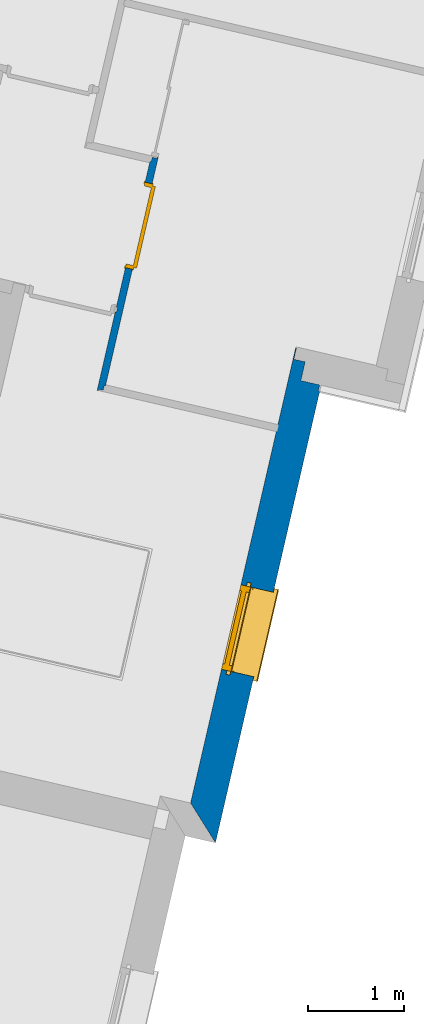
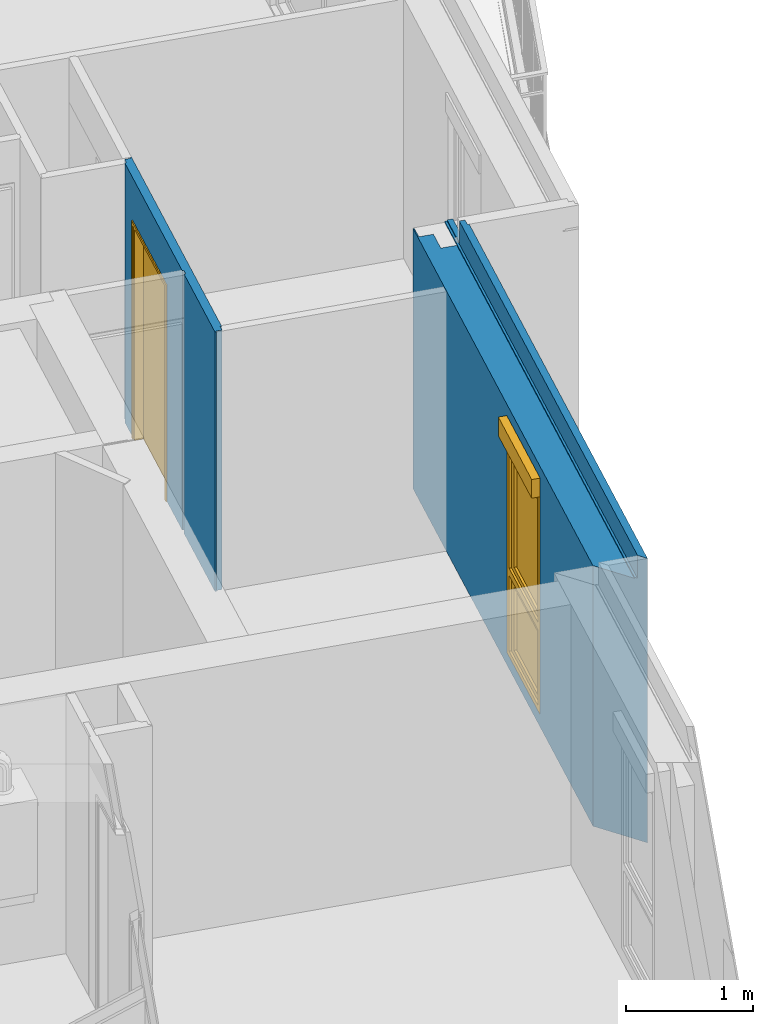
# One storey, part 9 of 62: 2 walls, 1 door, 1 window, 2 openings.
"""IFC2X3 building model written with IfcOpenShell, lengths in metres."""

import ifcopenshell
import ifcopenshell.guid

model = None  # the IFC model being written
_history = None  # IfcOwnerHistory: only IFC2X3 demands one
_inside = {}  # id of a spatial element -> (the spatial element, [elements in it])
_under = {}  # id of a project, library or spatial element -> (it, [spatial elements below it])
_declared = {}  # id of a project -> (the project, [libraries it declares])
_typed = {}  # id of a type object -> (the type object, [elements of that type])
_made_of = {}  # id of a material, layer set ... -> (it, [elements and type objects made of it])


def new_model(schema):
    """Start an empty IFC model of exactly this schema.

    Asked for "IFC4X3", IfcOpenShell would pick the latest addendum, in which some entities
    have other attributes; the version numbers below select the first issue.
    IFC2X3 requires an IfcOwnerHistory on every rooted entity: one is made here for all.
    """
    global model, _history
    if schema == "IFC4X3":
        model = ifcopenshell.file(schema_version=(4, 3, 0, 0))
    else:
        model = ifcopenshell.file(schema=schema)
    _inside.clear()
    _under.clear()
    _declared.clear()
    _typed.clear()
    _made_of.clear()
    _history = None
    if model.schema == "IFC2X3":
        org = make("IfcOrganization", Name="unknown")
        user = make(
            "IfcPersonAndOrganization",
            ThePerson=make("IfcPerson", FamilyName="unknown"),
            TheOrganization=org,
        )
        app = make(
            "IfcApplication",
            ApplicationDeveloper=org,
            Version="unknown",
            ApplicationFullName="unknown",
            ApplicationIdentifier="unknown",
        )
        _history = make(
            "IfcOwnerHistory",
            OwningUser=user,
            OwningApplication=app,
            ChangeAction="ADDED",
            CreationDate=0,
        )
    return model


def make(cls, **values):
    """One entity of the class cls with the attributes given. An attribute that is None is left unset."""
    return model.create_entity(
        cls, **{name: value for name, value in values.items() if value is not None}
    )


def entity(cls, *values):
    """Any entity or typed value of the class cls, its attributes in the order of the schema. None: left unset."""
    e = model.create_entity(cls)
    for i, value in enumerate(values):
        if value is not None:
            e[i] = value
    return e


def rooted(cls, **values):
    """An entity with a GlobalId (a new one), such as an element, a storey or a relation."""
    return make(cls, GlobalId=ifcopenshell.guid.new(), OwnerHistory=_history, **values)


def si_unit(unit_type, name, prefix=None):
    """IfcSIUnit, for example si_unit("LENGTHUNIT", "METRE", prefix="MILLI")."""
    return make("IfcSIUnit", UnitType=unit_type, Prefix=prefix, Name=name)


def converted_unit(unit_type, name, factor, base, dimensions=None, offset=None):
    """IfcConversionBasedUnit, such as the inch: factor (a typed value) times the base unit."""
    return make(
        "IfcConversionBasedUnit"
        if offset is None
        else "IfcConversionBasedUnitWithOffset",
        ConversionOffset=offset,
        Dimensions=None
        if dimensions is None
        else entity("IfcDimensionalExponents", *dimensions),
        UnitType=unit_type,
        Name=name,
        ConversionFactor=make(
            "IfcMeasureWithUnit", ValueComponent=factor, UnitComponent=base
        ),
    )


def derived_unit(unit_type, elements):
    """IfcDerivedUnit: a product of units, each with its exponent."""
    return make(
        "IfcDerivedUnit",
        Elements=[
            make("IfcDerivedUnitElement", Unit=unit, Exponent=power)
            for unit, power in elements
        ],
        UnitType=unit_type,
    )


def money_unit(currency):
    """IfcMonetaryUnit."""
    return make("IfcMonetaryUnit", Currency=currency)


def assignment(units):
    """IfcUnitAssignment: the units of a project."""
    return None if units is None else make("IfcUnitAssignment", Units=units)


def point(xyz):
    """IfcCartesianPoint."""
    return None if xyz is None else make("IfcCartesianPoint", Coordinates=xyz)


def direction(xyz):
    """IfcDirection."""
    return None if xyz is None else make("IfcDirection", DirectionRatios=xyz)


def frame(location, z_axis=None, x_axis=None):
    """IfcAxis2Placement3D, a coordinate frame: its origin and axes. An axis left out is left unset."""
    return make(
        "IfcAxis2Placement3D",
        Location=point(location),
        Axis=direction(z_axis),
        RefDirection=direction(x_axis),
    )


def origin_with_axes():
    """The frame at (0, 0, 0) with the z axis (0, 0, 1) and the x axis (1, 0, 0) written out."""
    return frame((0.0, 0.0, 0.0), z_axis=(0.0, 0.0, 1.0), x_axis=(1.0, 0.0, 0.0))


def place(relative_to, where):
    """IfcLocalPlacement: puts the frame where relative to a parent placement (None: the world)."""
    return make(
        "IfcLocalPlacement", PlacementRelTo=relative_to, RelativePlacement=where
    )


def context(
    kind, dimensions, precision=None, world=None, true_north=None, identifier=None
):
    """IfcGeometricRepresentationContext, for example the 3D "Model" context."""
    return make(
        "IfcGeometricRepresentationContext",
        ContextIdentifier=identifier,
        ContextType=kind,
        CoordinateSpaceDimension=dimensions,
        Precision=precision,
        WorldCoordinateSystem=world,
        TrueNorth=true_north,
    )


def subcontext(parent, identifier, kind, view, scale=None):
    """IfcGeometricRepresentationSubContext, for example "Body" below "Model"."""
    return make(
        "IfcGeometricRepresentationSubContext",
        ContextIdentifier=identifier,
        ContextType=kind,
        ParentContext=parent,
        TargetScale=scale,
        TargetView=view,
    )


def project(units=None, contexts=None):
    """IfcProject with its units and contexts."""
    return rooted(
        "IfcProject",
        Name="project",
        RepresentationContexts=contexts,
        UnitsInContext=assignment(units),
    )


def spatial(cls, under=None, at=None, **own):
    """A site, building, storey or space (cls), placed at a placement, below another one or the project."""
    s = rooted(cls, ObjectPlacement=at, **own)
    if under is not None:
        _under.setdefault(under.id(), (under, []))[1].append(s)
    return s


def faces_of(points, faces, orient=None, outer=None):
    """IfcFace entities. A face is a list of loops; a loop is a list of indices into points, from 0.

    orient and outer hold one flag for each loop. By default every Orientation is true, the
    first loop of a face is its IfcFaceOuterBound and the others are IfcFaceBound.
    """
    made = []
    for i, loops in enumerate(faces):
        bounds = []
        for j, loop in enumerate(loops):
            is_outer = j == 0 if outer is None else outer[i][j]
            bounds.append(
                make(
                    "IfcFaceOuterBound" if is_outer else "IfcFaceBound",
                    Bound=make("IfcPolyLoop", Polygon=[points[k] for k in loop]),
                    Orientation=True if orient is None else orient[i][j],
                )
            )
        made.append(make("IfcFace", Bounds=bounds))
    return made


def open_shell(faces, orient=None, outer=None):
    """The faces of one IfcOpenShell. surface_model builds it on its shared points."""
    return ("IfcOpenShell", faces, orient, outer)


def faceted_brep(points, faces, orient=None, outer=None, voids=None):
    """IfcFacetedBrep: a solid bounded by flat faces; with voids (closed shells), ...WithVoids."""
    shared = [point(p) for p in points]
    hull = make("IfcClosedShell", CfsFaces=faces_of(shared, faces, orient, outer))
    if voids is None:
        return make("IfcFacetedBrep", Outer=hull)
    return make(
        "IfcFacetedBrepWithVoids",
        Outer=hull,
        Voids=[
            make(cls, CfsFaces=faces_of(shared, fs, o, b)) for cls, fs, o, b in voids
        ],
    )


def surface_model(cls, points, shells):
    """IfcFaceBasedSurfaceModel or IfcShellBasedSurfaceModel (cls): surfaces that need not close."""
    shared = [point(p) for p in points]
    made = [make(c, CfsFaces=faces_of(shared, fs, o, b)) for c, fs, o, b in shells]
    if cls == "IfcFaceBasedSurfaceModel":
        return make(cls, FbsmFaces=made)
    return make(cls, SbsmBoundary=made)


def shape(context_of_items, identifier, shape_type, items):
    """IfcShapeRepresentation: the items that make up one representation, for example the "Body"."""
    return make(
        "IfcShapeRepresentation",
        ContextOfItems=context_of_items,
        RepresentationIdentifier=identifier,
        RepresentationType=shape_type,
        Items=items,
    )


def source(mapping_origin, context_of_items, identifier, shape_type, items):
    """IfcRepresentationMap: a shape defined once, which mapped items show again and again."""
    return make(
        "IfcRepresentationMap",
        MappingOrigin=mapping_origin,
        MappedRepresentation=shape(context_of_items, identifier, shape_type, items),
    )


def transform(
    local_origin,
    x_axis=None,
    y_axis=None,
    z_axis=None,
    scale=None,
    scale2=None,
    scale3=None,
    uniform=True,
):
    """IfcCartesianTransformationOperator3D, or its non-uniform kind. x_axis, y_axis, z_axis: its Axis1, 2, 3."""
    if uniform:
        return make(
            "IfcCartesianTransformationOperator3D",
            Axis1=direction(x_axis),
            Axis2=direction(y_axis),
            LocalOrigin=point(local_origin),
            Scale=scale,
            Axis3=direction(z_axis),
        )
    return make(
        "IfcCartesianTransformationOperator3DnonUniform",
        Axis1=direction(x_axis),
        Axis2=direction(y_axis),
        LocalOrigin=point(local_origin),
        Scale=scale,
        Axis3=direction(z_axis),
        Scale2=scale2,
        Scale3=scale3,
    )


def mapped(mapping_source, mapping_target):
    """IfcMappedItem: shows the shape of a source again, moved by a transform."""
    return make(
        "IfcMappedItem", MappingSource=mapping_source, MappingTarget=mapping_target
    )


def material(Name=None, Category=None):
    """IfcMaterial."""
    return make("IfcMaterial", Name=Name, Category=Category)


def material_list(materials):
    """IfcMaterialList."""
    return make("IfcMaterialList", Materials=materials)


def made_of(thing, what):
    """Note that an element or type object is made of a material, layer set ...; save() writes the relation."""
    if what is not None:
        _made_of.setdefault(what.id(), (what, []))[1].append(thing)
    return thing


def type_object(cls, material=None, **own):
    """A type object (cls), such as IfcWallType, which elements share."""
    return made_of(rooted(cls, **own), material)


def element(
    cls,
    number,
    at=None,
    inside=None,
    cuts=None,
    type_object=None,
    material=None,
    context=None,
    identifier="Body",
    shape_type=None,
    held_by="IfcProductDefinitionShape",
    body=None,
    shapes=None,
    **own,
):
    """One element of the class cls, such as IfcWall. Its Tag is "e" and its number.

    at: its placement. inside: the storey or other place that contains it. cuts: it is an
    opening in that element (IfcRelVoidsElement). A single representation is given by context,
    identifier, shape_type and body (its items); several are given by shapes. held_by: the class
    of the entity that holds the representations. save() writes the other relations.
    """
    e = rooted(cls, Tag="e%d" % number, ObjectPlacement=at, **own)
    if body is not None:
        shapes = [shape(context, identifier, shape_type, body)]
    if shapes is not None:
        e.Representation = make(held_by, Representations=shapes)
    if inside is not None:
        _inside.setdefault(inside.id(), (inside, []))[1].append(e)
    if cuts is not None:
        rooted(
            "IfcRelVoidsElement", RelatingBuildingElement=cuts, RelatedOpeningElement=e
        )
    if type_object is not None:
        _typed.setdefault(type_object.id(), (type_object, []))[1].append(e)
    return made_of(e, material)


def fill(opening, filler):
    """IfcRelFillsElement: the door or window that sits in an opening."""
    return rooted(
        "IfcRelFillsElement",
        RelatingOpeningElement=opening,
        RelatedBuildingElement=filler,
    )


def aggregate(whole, parts):
    """IfcRelAggregates: a whole, such as a stair, and the parts it consists of."""
    return rooted("IfcRelAggregates", RelatingObject=whole, RelatedObjects=parts)


def save(model, path):
    """Write the relations noted so far, then the file.

    IfcRelAggregates (storeys below a building ...), IfcRelContainedInSpatialStructure (elements
    in a storey), IfcRelDefinesByType, IfcRelAssociatesMaterial and IfcRelDeclares: one each for
    every whole, place, type object, material and project.
    """
    for whole, parts in _under.values():
        aggregate(whole, parts)
    for where, things in _inside.values():
        rooted(
            "IfcRelContainedInSpatialStructure",
            RelatedElements=things,
            RelatingStructure=where,
        )
    for kind, things in _typed.values():
        rooted("IfcRelDefinesByType", RelatedObjects=things, RelatingType=kind)
    for what, things in _made_of.values():
        rooted("IfcRelAssociatesMaterial", RelatedObjects=things, RelatingMaterial=what)
    for by, libraries in _declared.values():
        rooted("IfcRelDeclares", RelatingContext=by, RelatedDefinitions=libraries)
    model.write(path)


model = new_model("IFC2X3")

# Units and contexts
model_context = context("Model", 3, precision=1e-05, world=origin_with_axes(), true_north=direction((0.0, 1.0)))
body_context = subcontext(model_context, "Body", "Model", "MODEL_VIEW")
ifc_project = project(units=[si_unit("LENGTHUNIT", "METRE"), si_unit("AREAUNIT", "SQUARE_METRE"), si_unit("VOLUMEUNIT", "CUBIC_METRE"), converted_unit("PLANEANGLEUNIT", "DEGREE", entity("IfcPlaneAngleMeasure", 0.0174532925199), si_unit("PLANEANGLEUNIT", "RADIAN"), dimensions=[0, 0, 0, 0, 0, 0, 0]), si_unit("SOLIDANGLEUNIT", "STERADIAN"), money_unit("EUR"), converted_unit("TIMEUNIT", "Year", entity("IfcTimeMeasure", 31556926.0), si_unit("TIMEUNIT", "SECOND"), dimensions=[0, 0, 1, 0, 0, 0, 0]), si_unit("MASSUNIT", "GRAM", prefix="KILO"), si_unit("THERMODYNAMICTEMPERATUREUNIT", "DEGREE_CELSIUS"), si_unit("LUMINOUSINTENSITYUNIT", "LUMEN"), si_unit("ENERGYUNIT", "JOULE", prefix="MEGA"), derived_unit("THERMALCONDUCTANCEUNIT", [(si_unit("POWERUNIT", "WATT"), 1), (si_unit("LENGTHUNIT", "METRE"), -1), (si_unit("THERMODYNAMICTEMPERATUREUNIT", "KELVIN"), -1)]), derived_unit("SPECIFICHEATCAPACITYUNIT", [(si_unit("ENERGYUNIT", "JOULE"), 1), (si_unit("MASSUNIT", "GRAM", prefix="KILO"), -1), (si_unit("THERMODYNAMICTEMPERATUREUNIT", "KELVIN"), -1)]), derived_unit("MASSDENSITYUNIT", [(si_unit("MASSUNIT", "GRAM", prefix="KILO"), 1), (si_unit("VOLUMEUNIT", "CUBIC_METRE"), -1)])], contexts=[model_context])

# Site, building, storey
site_placement = place(None, origin_with_axes())
site = spatial("IfcSite", under=ifc_project, at=site_placement, Name="Site", CompositionType="ELEMENT")
building_placement = place(site_placement, origin_with_axes())
building = spatial("IfcBuilding", under=site, at=building_placement, Name="Bâtiment", CompositionType="ELEMENT")
storey_placement = place(building_placement, frame((0.0, 0.0, 8.16), z_axis=(0.0, 0.0, 1.0), x_axis=(1.0, 0.0, 0.0)))
storey = spatial("IfcBuildingStorey", under=building, at=storey_placement, Name="R+3", CompositionType="ELEMENT", Elevation=8.16)

# Wall, opening, door
ifc_material_1 = material(Name="Finition int - Plaque de plâtre")
ifc_material_2 = material(Name="Isolation - Laine de roche")
ifc_material_list_1 = material_list([ifc_material_1, ifc_material_2, ifc_material_1])
wall_type_1 = type_object("IfcWallType", Name="3 - Cloison 72mm Placostil 74", PredefinedType="USERDEFINED")
wall_1_placement = place(storey_placement, frame((-6.26296169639, -5.63237108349, 0.0), z_axis=(0.0, 0.0, 1.0), x_axis=(0.224876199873, 0.974387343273, 0.0)))
wall_1 = element("IfcWall", 1, at=wall_1_placement, inside=storey, type_object=wall_type_1, material=ifc_material_list_1, Name="Cloison Placostil 72/48", ObjectType="PARTITIONING", context=body_context, shape_type="Brep", body=[
    faceted_brep([(1.23167736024, -0.013, 0.0), (1.23167736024, -0.013, 2.08), (2.14167736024, -0.013, 2.08), (2.14167736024, -0.013, 0.0), (2.36230996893, -0.013, 0.0), (2.36230996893, -0.013, 2.5), (0.810757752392, -0.013, 2.5), (0.810757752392, -0.013, 0.0), (1.23167736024, 0.0, 0.0), (1.23167736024, 0.0, 2.08), (2.14167736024, 0.0, 2.08), (2.14167736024, 0.0, 0.0), (2.36230996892, 0.0, 0.0), (2.36230996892, 0.0, 2.5), (0.810757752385, 0.0, 2.5), (0.810757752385, 0.0, 0.0)], [[[0, 1, 2, 3, 4, 5, 6, 7]], [[1, 0, 8, 9]], [[2, 1, 9, 10]], [[3, 2, 10, 11]], [[3, 11, 12, 4]], [[5, 4, 12, 13]], [[13, 14, 6, 5]], [[6, 14, 15, 7]], [[8, 0, 7, 15]], [[9, 8, 15, 14, 13, 12, 11, 10]]]),
    faceted_brep([(0.762757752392, -0.013, 2.5), (0.762757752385, 0.0, 2.5), (-0.074, 0.0, 2.5), (-0.0740000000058, -0.013, 2.5), (0.762757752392, -0.013, 0.0), (0.762757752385, 0.0, 0.0), (-0.074, 0.0, 0.0), (-0.0740000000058, -0.013, 0.0)], [[[0, 1, 2, 3]], [[1, 0, 4, 5]], [[1, 5, 6, 2]], [[7, 3, 2, 6]], [[4, 0, 3, 7]], [[5, 4, 7, 6]]]),
    faceted_brep([(1.23167736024, -0.061, 0.0), (1.23167736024, -0.061, 2.08), (2.14167736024, -0.061, 2.08), (2.14167736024, -0.061, 0.0), (2.41030996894, -0.061, 0.0), (2.41030996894, -0.061, 2.5), (-0.0610000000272, -0.061, 2.5), (-0.0610000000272, -0.061, 0.0), (1.23167736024, -0.013, 0.0), (1.23167736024, -0.013, 2.08), (2.14167736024, -0.013, 2.08), (2.14167736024, -0.013, 0.0), (2.41030996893, -0.013, 0.0), (2.41030996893, -0.013, 2.5), (-0.0610000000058, -0.013, 2.5), (-0.0610000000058, -0.013, 0.0)], [[[0, 1, 2, 3, 4, 5, 6, 7]], [[1, 0, 8, 9]], [[2, 1, 9, 10]], [[3, 2, 10, 11]], [[3, 11, 12, 4]], [[5, 4, 12, 13]], [[13, 14, 6, 5]], [[6, 14, 15, 7]], [[8, 0, 7, 15]], [[9, 8, 15, 14, 13, 12, 11, 10]]]),
    faceted_brep([(1.23167736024, -0.074, 0.0), (1.23167736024, -0.074, 2.08), (2.14167736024, -0.074, 2.08), (2.14167736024, -0.074, 0.0), (2.42330996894, -0.074, 0.0), (2.42330996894, -0.074, 2.5), (-0.013000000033, -0.074, 2.5), (-0.013000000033, -0.074, 0.0), (1.23167736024, -0.061, 0.0), (1.23167736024, -0.061, 2.08), (2.14167736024, -0.061, 2.08), (2.14167736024, -0.061, 0.0), (2.42330996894, -0.061, 0.0), (2.42330996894, -0.061, 2.5), (-0.0130000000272, -0.061, 2.5), (-0.0130000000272, -0.061, 0.0)], [[[0, 1, 2, 3, 4, 5, 6, 7]], [[1, 0, 8, 9]], [[2, 1, 9, 10]], [[3, 2, 10, 11]], [[3, 11, 12, 4]], [[5, 4, 12, 13]], [[13, 14, 6, 5]], [[6, 14, 15, 7]], [[8, 0, 7, 15]], [[9, 8, 15, 14, 13, 12, 11, 10]]]),
])
opening_1_placement = place(wall_1_placement, frame((1.68667736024, 0.0, 0.0), z_axis=(0.0, 0.0, 1.0), x_axis=(1.0, 0.0, 0.0)))
opening_1 = element("IfcOpeningElement", 2, at=opening_1_placement, cuts=wall_1, Name="Porte 83x204 bois alvéolaire", context=body_context, shape_type="Brep", body=[
    faceted_brep([(-0.455, 0.074, 0.0), (0.455, 0.074, 0.0), (0.455, -0.074, 0.0), (-0.455, -0.074, 0.0), (-0.455, 0.074, 2.08), (0.455, 0.074, 2.08), (0.455, -0.074, 2.08), (-0.455, -0.074, 2.08)], [[[0, 1, 2, 3]], [[0, 4, 5, 1]], [[1, 5, 6, 2]], [[3, 2, 6, 7]], [[4, 0, 3, 7]], [[5, 4, 7, 6]]]),
])
door_style = type_object("IfcDoorStyle", Name="Porte int générique 2019", ConstructionType="NOTDEFINED", OperationType="SINGLE_SWING_RIGHT", ParameterTakesPrecedence=False, Sizeable=False)
shared_shape_1 = source(origin_with_axes(), body_context, "Body", "Brep", [
    faceted_brep([(0.455, 0.0, 0.0), (0.415, 0.0, 0.0), (0.415, 0.0, 2.04), (-0.415, 0.0, 2.04), (-0.415, 0.0, 0.0), (-0.455, 0.0, 0.0), (-0.455, 0.0, 2.08), (0.455, 0.0, 2.08), (0.455, -0.074, 0.0), (0.415, -0.074, 0.0), (0.415, -0.074, 2.04), (-0.415, -0.074, 2.04), (-0.415, -0.074, 0.0), (-0.455, -0.074, 0.0), (-0.455, -0.074, 2.08), (0.455, -0.074, 2.08)], [[[0, 1, 2, 3, 4, 5, 6, 7]], [[0, 8, 9, 1]], [[1, 9, 10, 2]], [[2, 10, 11, 3]], [[3, 11, 12, 4]], [[5, 4, 12, 13]], [[14, 6, 5, 13]], [[15, 7, 6, 14]], [[8, 0, 7, 15]], [[9, 8, 15, 14, 13, 12, 11, 10]]]),
    faceted_brep([(0.465, 0.0, 0.0), (0.465, 0.01, 0.0), (0.465, 0.01, 2.09), (0.465, 0.0, 2.09), (0.435, 0.0, 0.0), (0.435, 0.01, 0.0), (0.435, 0.01, 2.06), (-0.435, 0.01, 2.06), (-0.435, 0.01, 0.0), (-0.465, 0.01, 0.0), (-0.465, 0.01, 2.09), (-0.465, 0.0, 2.09), (-0.465, 0.0, 0.0), (-0.435, 0.0, 0.0), (-0.435, 0.0, 2.06), (0.435, 0.0, 2.06)], [[[0, 1, 2, 3]], [[0, 4, 5, 1]], [[1, 5, 6, 7, 8, 9, 10, 2]], [[3, 2, 10, 11]], [[4, 0, 3, 11, 12, 13, 14, 15]], [[5, 4, 15, 6]], [[6, 15, 14, 7]], [[7, 14, 13, 8]], [[12, 9, 8, 13]], [[11, 10, 9, 12]]]),
    faceted_brep([(0.465, -0.084, 0.0), (0.465, -0.074, 0.0), (0.465, -0.074, 2.09), (0.465, -0.084, 2.09), (0.435, -0.084, 0.0), (0.435, -0.074, 0.0), (0.435, -0.074, 2.06), (-0.435, -0.074, 2.06), (-0.435, -0.074, 0.0), (-0.465, -0.074, 0.0), (-0.465, -0.074, 2.09), (-0.465, -0.084, 2.09), (-0.465, -0.084, 0.0), (-0.435, -0.084, 0.0), (-0.435, -0.084, 2.06), (0.435, -0.084, 2.06)], [[[0, 1, 2, 3]], [[0, 4, 5, 1]], [[1, 5, 6, 7, 8, 9, 10, 2]], [[3, 2, 10, 11]], [[4, 0, 3, 11, 12, 13, 14, 15]], [[5, 4, 15, 6]], [[6, 15, 14, 7]], [[7, 14, 13, 8]], [[12, 9, 8, 13]], [[11, 10, 9, 12]]]),
    faceted_brep([(0.435, 0.04, 0.0), (0.435, 0.0, 0.0), (-0.435, 0.0, 0.0), (-0.435, 0.04, 0.0), (0.435, 0.04, 2.06), (0.435, 0.0, 2.06), (-0.435, 0.0, 2.06), (-0.435, 0.04, 2.06)], [[[0, 1, 2, 3]], [[4, 5, 1, 0]], [[1, 5, 6, 2]], [[3, 2, 6, 7]], [[0, 3, 7, 4]], [[7, 6, 5, 4]]]),
])
door_placement = place(opening_1_placement, frame((0.415, 0.0, 0.0), z_axis=(0.0, 0.0, 1.0), x_axis=(-1.0, 0.0, 0.0)))
door = element("IfcDoor", 3, at=door_placement, inside=storey, type_object=door_style, Name="Porte 83x204 bois alvéolaire", ObjectType="DOOR", OverallHeight=2.04, OverallWidth=0.83, context=body_context, shape_type="MappedRepresentation", body=[
    mapped(shared_shape_1, transform((0.415, 0.074, 0.0))),
])
fill(opening_1, door)

# Wall, opening, window
ifc_material_3 = material(Name="Finition ext - Crépis")
ifc_material_4 = material(Name="Béton cellulaire")
ifc_material_5 = material(Name="Mortier")
ifc_material_6 = material(Name="Bloc ELITHERM")
ifc_material_7 = material(Name="Isolation - Polystyrène extrudé")
ifc_material_list_2 = material_list([ifc_material_3, ifc_material_4, ifc_material_5, ifc_material_6, ifc_material_7, ifc_material_1])
wall_type_2 = type_object("IfcWallType", Name="Mur ALKERN + planelle 23 345 x 2740", PredefinedType="USERDEFINED")
wall_2_placement = place(storey_placement, frame((-3.96190296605, -5.68234668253, 0.0), z_axis=(0.0, 0.0, 1.0), x_axis=(-0.224876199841, -0.97438734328, 0.0)))
wall_2 = element("IfcWall", 4, at=wall_2_placement, inside=storey, type_object=wall_type_2, material=ifc_material_list_2, Name="Mue bloc ALKERN isolé", ObjectType="SOLIDWALL", context=body_context, shape_type="Brep", body=[
    faceted_brep([(2.17506127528, -0.0150000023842, 0.12), (2.17506127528, -0.0150000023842, 0.06), (2.17506127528, -3.42727046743e-09, 0.06), (2.17506127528, 0.0, 0.12), (2.17506127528, 0.0, 2.22), (2.17506127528, -0.0150000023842, 2.22), (0.0350000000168, -0.0150000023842, 0.0), (4.82967339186, -0.0150000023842, 0.0), (4.82967339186, -0.0150000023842, 2.74), (0.0350000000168, -0.0150000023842, 2.74), (3.07506127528, -0.0150000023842, 2.22), (3.07506127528, -0.0150000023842, 0.12), (3.07506127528, -0.0150000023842, 0.06), (3.07506127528, -3.42727179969e-09, 0.06), (4.84467339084, -3.42727268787e-09, 0.0), (0.035, -2.60107491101e-10, 0.0), (0.035, 0.0, 2.74), (4.84467339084, -3.42727268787e-09, 2.74), (3.07506127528, 0.0, 0.12), (3.07506127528, 0.0, 2.22)], [[[0, 1, 2, 3, 4, 5]], [[6, 7, 8, 9], [1, 0, 5, 10, 11, 12]], [[13, 2, 1, 12]], [[14, 15, 16, 17], [13, 18, 19, 4, 3, 2]], [[19, 10, 5, 4]], [[15, 14, 7, 6]], [[14, 17, 8, 7]], [[9, 8, 17, 16]], [[16, 15, 6, 9]], [[18, 13, 12, 11, 10, 19]]]),
    faceted_brep([(-0.0299999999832, -0.015, 2.53999999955), (-0.0299999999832, -0.015, 2.74), (4.82967339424, -0.015, 2.74), (4.82967339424, -0.015, 2.5200000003), (-0.359999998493, -0.015, 2.5200000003), (-0.359999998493, -0.015, 2.53000000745), (-0.0979999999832, -0.015, 2.53), (-0.0299999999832, -0.015, 2.53), (-0.0299999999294, -0.0630000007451, 2.74), (-0.0299999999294, -0.0630000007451, 2.53999999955), (4.78167339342, -0.0630000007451, 2.74), (4.78167339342, -0.0630000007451, 2.5200000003), (-0.359999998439, -0.0630000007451, 2.5200000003), (-0.359999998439, -0.0630000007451, 2.53000000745), (-0.0979999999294, -0.0630000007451, 2.53), (-0.0299999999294, -0.0630000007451, 2.53)], [[[0, 1, 2, 3, 4, 5, 6, 7]], [[8, 1, 0, 9]], [[1, 8, 10, 2]], [[11, 3, 2, 10]], [[4, 3, 11, 12]], [[13, 5, 4, 12]], [[14, 6, 5, 13]], [[7, 6, 14, 15]], [[9, 0, 7, 15]], [[8, 9, 15, 14, 13, 12, 11, 10]]]),
    faceted_brep([(4.76167342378, -0.0829999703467, 2.51999999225), (4.82967339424, -0.015, 2.52), (-0.359999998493, -0.015, 2.52), (-0.359999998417, -0.083, 2.52), (4.82967339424, -0.015, 2.51), (4.76167342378, -0.0829999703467, 2.50999997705), (-0.359999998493, -0.015, 2.51), (-0.359999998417, -0.083, 2.51)], [[[0, 1, 2, 3]], [[4, 1, 0, 5]], [[1, 4, 6, 2]], [[3, 2, 6, 7]], [[5, 0, 3, 7]], [[4, 5, 7, 6]]]),
    faceted_brep([(2.17506127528, -0.214999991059, 0.12), (2.17506127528, -0.214999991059, 0.06), (2.17506127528, -0.015, 0.06), (2.17506127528, -0.015, 0.12), (2.17506127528, -0.015, 2.22), (2.17506127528, -0.214999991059, 2.22), (4.62967340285, -0.214999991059, 0.0), (4.62967340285, -0.214999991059, 2.50999999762), (-0.0299999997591, -0.214999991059, 2.50999999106), (-0.0299999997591, -0.214999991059, 0.0), (3.07506127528, -0.214999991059, 2.22), (3.07506127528, -0.214999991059, 0.12), (3.07506127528, -0.214999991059, 0.06), (3.07506127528, -0.015, 0.06), (4.82967339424, -0.015, 2.50999999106), (4.82967339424, -0.015, 0.0), (-0.0299999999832, -0.015, 0.0), (-0.0299999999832, -0.015, 2.50999999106), (3.07506127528, -0.015, 0.12), (3.07506127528, -0.015, 2.22), (4.76167342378, -0.0829999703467, 2.50999997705), (-0.029999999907, -0.082999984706, 2.50999999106)], [[[0, 1, 2, 3, 4, 5]], [[6, 7, 8, 9], [1, 0, 5, 10, 11, 12]], [[13, 2, 1, 12]], [[14, 15, 16, 17], [13, 18, 19, 4, 3, 2]], [[19, 10, 5, 4]], [[7, 6, 15, 14, 20]], [[7, 20, 21, 8]], [[8, 21, 17, 16, 9]], [[15, 6, 9, 16]], [[18, 13, 12, 11, 10, 19]], [[20, 14, 17, 21]]]),
    faceted_brep([(2.17506127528, -0.286, 0.12), (2.17506127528, -0.286, 0.06), (2.17506127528, -0.215000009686, 0.06), (2.17506127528, -0.215000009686, 0.12), (2.17506127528, -0.215, 2.22), (2.17506127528, -0.215, 2.4), (2.17506127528, -0.335000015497, 2.4), (2.17506127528, -0.335000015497, 2.22), (2.17506127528, -0.335000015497, 0.12), (3.07506127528, -0.286, 0.12), (3.07506127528, -0.286, 0.06), (3.07506127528, -0.215000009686, 0.06), (4.62967338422, -0.215000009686, 0.0), (-0.229999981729, -0.215000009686, 0.0), (-0.229999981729, -0.215000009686, 2.50999999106), (4.62967338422, -0.215000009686, 2.50999999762), (3.07506127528, -0.215000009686, 0.12), (3.07506127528, -0.215, 2.22), (3.07506127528, -0.215, 2.4), (3.07506127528, -0.335000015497, 2.4), (4.50967337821, -0.335000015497, 2.51000001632), (-0.229999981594, -0.335000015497, 2.50999999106), (-0.229999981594, -0.335000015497, 0.0), (4.50967337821, -0.335000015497, 0.0), (3.07506127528, -0.335000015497, 2.22), (3.07506127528, -0.335000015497, 0.12)], [[[0, 1, 2, 3, 4, 5, 6, 7, 8]], [[0, 9, 10, 1]], [[11, 2, 1, 10]], [[12, 13, 14, 15], [11, 16, 17, 18, 5, 4, 3, 2]], [[18, 19, 6, 5]], [[20, 21, 22, 23], [8, 7, 6, 19, 24, 25]], [[9, 0, 8, 25]], [[16, 11, 10, 9, 25, 24, 19, 18, 17]], [[23, 22, 13, 12]], [[22, 21, 14, 13]], [[15, 14, 21, 20]], [[20, 23, 12, 15]]]),
    faceted_brep([(-0.350000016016, -0.335000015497, 2.50999999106), (4.50967337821, -0.335000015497, 2.51000001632), (4.50967337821, -0.335000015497, 0.0), (-0.350000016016, -0.335000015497, 0.0), (3.07506127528, -0.335000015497, 2.22), (3.07506127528, -0.335000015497, 2.4), (2.17506127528, -0.335000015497, 2.4), (2.17506127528, -0.335000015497, 2.22), (2.17506127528, -0.335000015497, 0.12), (3.07506127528, -0.335000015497, 0.12), (-0.350000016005, -0.344999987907, 2.50999999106), (4.49967341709, -0.344999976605, 2.51000001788), (4.49967341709, -0.344999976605, 0.0), (-0.350000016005, -0.344999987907, 0.0), (3.07506127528, -0.344999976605, 2.22), (3.07506127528, -0.344999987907, 2.4), (3.07506127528, -0.344999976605, 0.12), (2.17506127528, -0.344999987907, 2.4), (2.17506127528, -0.344999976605, 2.22), (2.17506127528, -0.344999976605, 0.12)], [[[0, 1, 2, 3], [4, 5, 6, 7, 8, 9]], [[10, 11, 1, 0]], [[2, 1, 11, 12]], [[3, 2, 12, 13]], [[0, 3, 13, 10]], [[14, 15, 5, 4, 9, 16]], [[6, 5, 15, 17]], [[7, 6, 17, 18, 19, 8]], [[8, 19, 16, 9]], [[13, 12, 11, 10], [15, 14, 16, 19, 18, 17]]]),
])
opening_2_placement = place(wall_2_placement, frame((2.62506127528, 0.0, 0.12), z_axis=(0.0, 0.0, 1.0), x_axis=(1.0, 0.0, 0.0)))
opening_2 = element("IfcOpeningElement", 5, at=opening_2_placement, cuts=wall_2, Name="MEN 97", context=body_context, shape_type="Brep", body=[
    faceted_brep([(0.45, -0.245, 0.0), (0.45, -0.245, 2.1), (0.45, -0.83499998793, 2.1), (0.45, -0.83499998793, 0.0), (-0.45, -0.245, 0.0), (-0.45, -0.245, 2.1), (-0.45, -0.83499998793, 2.1), (-0.45, -0.83499998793, 0.0)], [[[0, 1, 2, 3]], [[0, 4, 5, 1]], [[1, 5, 6, 2]], [[3, 2, 6, 7]], [[4, 0, 3, 7]], [[5, 4, 7, 6]]]),
    faceted_brep([(0.45, -0.245, 0.0), (-0.45, -0.245, 0.0), (-0.45, 0.34499998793, 0.0), (0.45, 0.34499998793, 0.0), (0.45, -0.245, 2.1), (-0.45, -0.245, 2.1), (-0.45, 0.34499998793, 2.1), (0.45, 0.34499998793, 2.1)], [[[0, 1, 2, 3]], [[0, 4, 5, 1]], [[1, 5, 6, 2]], [[3, 2, 6, 7]], [[4, 0, 3, 7]], [[5, 4, 7, 6]]]),
    faceted_brep([(0.45, -0.245, 0.0), (-0.45, -0.245, 0.0), (-0.45, 0.34499998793, 0.0), (0.45, 0.34499998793, 0.0), (0.45, -0.245, 2.1), (-0.45, -0.245, 2.1), (-0.45, 0.34499998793, 2.1), (0.45, 0.34499998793, 2.1)], [[[0, 1, 2, 3]], [[0, 4, 5, 1]], [[1, 5, 6, 2]], [[3, 2, 6, 7]], [[4, 0, 3, 7]], [[5, 4, 7, 6]]]),
    faceted_brep([(0.45, -0.215, 2.1), (0.45, -0.215, 2.28), (0.45, -0.80499998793, 2.28), (0.45, -0.80499998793, 2.1), (-0.45, -0.215, 2.1), (-0.45, -0.215, 2.28), (-0.45, -0.80499998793, 2.28), (-0.45, -0.80499998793, 2.1)], [[[0, 1, 2, 3]], [[0, 4, 5, 1]], [[1, 5, 6, 2]], [[3, 2, 6, 7]], [[4, 0, 3, 7]], [[5, 4, 7, 6]]]),
    faceted_brep([(0.45, -0.286, 0.0), (0.45, -0.286, -0.06), (0.45, 0.30399998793, -0.06), (0.45, 0.30399998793, 0.0), (-0.45, -0.286, 0.0), (-0.45, -0.286, -0.06), (-0.45, 0.30399998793, -0.06), (-0.45, 0.30399998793, 0.0)], [[[0, 1, 2, 3]], [[0, 4, 5, 1]], [[1, 5, 6, 2]], [[3, 2, 6, 7]], [[4, 0, 3, 7]], [[5, 4, 7, 6]]]),
])
window_style = type_object("IfcWindowStyle", Name="Baie générique 2017 v2", ConstructionType="NOTDEFINED", OperationType="NOTDEFINED", ParameterTakesPrecedence=False, Sizeable=False)
shared_shape_2 = source(origin_with_axes(), body_context, "Body", "SurfaceModel", [
    faceted_brep([(0.45, 0.0, 2.1), (0.45, 0.0, 0.0), (-0.45, 0.0, 0.0), (-0.45, 0.0, 2.1), (-0.39, 0.0, 0.85), (0.39, 0.0, 0.85), (0.39, 0.0, 2.05), (-0.39, 0.0, 2.05), (-0.39, 0.0, 0.78), (-0.39, 0.0, 0.05), (0.39, 0.0, 0.05), (0.39, 0.0, 0.78), (0.45, -0.1, 2.1), (0.45, -0.1, 0.0), (-0.45, -0.1, 0.0), (-0.45, -0.1, 2.1), (-0.39, -0.1, 0.85), (0.39, -0.1, 0.85), (0.39, -0.1, 2.05), (-0.39, -0.1, 2.05), (-0.39, -0.1, 0.78), (-0.39, -0.1, 0.05), (0.39, -0.1, 0.05), (0.39, -0.1, 0.78)], [[[0, 1, 2, 3], [4, 5, 6, 7], [8, 9, 10, 11]], [[0, 12, 13, 1]], [[1, 13, 14, 2]], [[2, 14, 15, 3]], [[3, 15, 12, 0]], [[4, 16, 17, 5]], [[5, 17, 18, 6]], [[6, 18, 19, 7]], [[16, 4, 7, 19]], [[8, 20, 21, 9]], [[9, 21, 22, 10]], [[23, 11, 10, 22]], [[20, 8, 11, 23]], [[14, 13, 12, 15], [16, 19, 18, 17], [20, 23, 22, 21]]]),
    faceted_brep([(-0.39, -0.08, 2.05), (-0.39, -0.08, 0.85), (0.39, -0.08, 0.85), (0.39, -0.08, 2.05), (-0.32, -0.08, 1.98), (0.32, -0.08, 1.98), (0.32, -0.08, 0.9), (-0.32, -0.08, 0.9), (-0.39, -0.03, 2.05), (-0.39, -0.03, 0.85), (0.39, -0.03, 0.85), (0.39, -0.03, 2.05), (-0.32, -0.03, 1.98), (0.32, -0.03, 1.98), (0.32, -0.03, 0.9), (-0.32, -0.03, 0.9)], [[[0, 1, 2, 3], [4, 5, 6, 7]], [[1, 0, 8, 9]], [[10, 2, 1, 9]], [[11, 3, 2, 10]], [[0, 3, 11, 8]], [[5, 4, 12, 13]], [[14, 6, 5, 13]], [[15, 7, 6, 14]], [[4, 7, 15, 12]], [[11, 10, 9, 8], [15, 14, 13, 12]]]),
    surface_model("IfcShellBasedSurfaceModel", [(0.39, -0.08, 0.85), (0.39, -0.055, 0.85), (0.39, -0.055, 2.05), (0.39, -0.08, 2.05)], [open_shell([[[0, 1, 2, 3]]])]),
    surface_model("IfcShellBasedSurfaceModel", [(-0.39, -0.08, 0.85), (-0.39, -0.055, 0.85), (-0.39, -0.055, 2.05), (-0.39, -0.08, 2.05)], [open_shell([[[0, 1, 2, 3]]])]),
    surface_model("IfcShellBasedSurfaceModel", [(0.39, -0.08, 0.85), (0.39, -0.055, 0.85), (-0.39, -0.055, 0.85), (-0.39, -0.08, 0.85)], [open_shell([[[0, 1, 2, 3]]])]),
    surface_model("IfcShellBasedSurfaceModel", [(0.39, -0.08, 2.05), (0.39, -0.055, 2.05), (-0.39, -0.055, 2.05), (-0.39, -0.08, 2.05)], [open_shell([[[0, 1, 2, 3]]])]),
    surface_model("IfcShellBasedSurfaceModel", [(0.39, -0.055, 0.85), (0.39, -0.03, 0.85), (0.39, -0.03, 2.05), (0.39, -0.055, 2.05)], [open_shell([[[0, 1, 2, 3]]])]),
    surface_model("IfcShellBasedSurfaceModel", [(-0.39, -0.055, 0.85), (-0.39, -0.03, 0.85), (-0.39, -0.03, 2.05), (-0.39, -0.055, 2.05)], [open_shell([[[0, 1, 2, 3]]])]),
    surface_model("IfcShellBasedSurfaceModel", [(0.39, -0.055, 0.85), (0.39, -0.03, 0.85), (-0.39, -0.03, 0.85), (-0.39, -0.055, 0.85)], [open_shell([[[0, 1, 2, 3]]])]),
    surface_model("IfcShellBasedSurfaceModel", [(0.39, -0.055, 2.05), (0.39, -0.03, 2.05), (-0.39, -0.03, 2.05), (-0.39, -0.055, 2.05)], [open_shell([[[0, 1, 2, 3]]])]),
    faceted_brep([(0.32, -0.0575, 0.9), (-0.32, -0.0575, 0.9), (-0.32, -0.0525, 0.9), (0.32, -0.0525, 0.9), (0.32, -0.0575, 1.98), (-0.32, -0.0575, 1.98), (-0.32, -0.0525, 1.98), (0.32, -0.0525, 1.98)], [[[0, 1, 2, 3]], [[0, 4, 5, 1]], [[1, 5, 6, 2]], [[3, 2, 6, 7]], [[4, 0, 3, 7]], [[5, 4, 7, 6]]]),
    faceted_brep([(-0.39, -0.08, 0.78), (-0.39, -0.08, 0.05), (0.39, -0.08, 0.05), (0.39, -0.08, 0.78), (-0.32, -0.08, 0.71), (0.32, -0.08, 0.71), (0.32, -0.08, 0.1), (-0.32, -0.08, 0.1), (-0.39, -0.03, 0.78), (-0.39, -0.03, 0.05), (0.39, -0.03, 0.05), (0.39, -0.03, 0.78), (-0.32, -0.03, 0.71), (0.32, -0.03, 0.71), (0.32, -0.03, 0.1), (-0.32, -0.03, 0.1)], [[[0, 1, 2, 3], [4, 5, 6, 7]], [[1, 0, 8, 9]], [[10, 2, 1, 9]], [[11, 3, 2, 10]], [[0, 3, 11, 8]], [[5, 4, 12, 13]], [[14, 6, 5, 13]], [[15, 7, 6, 14]], [[4, 7, 15, 12]], [[11, 10, 9, 8], [15, 14, 13, 12]]]),
    surface_model("IfcShellBasedSurfaceModel", [(0.39, -0.08, 0.05), (0.39, -0.055, 0.05), (0.39, -0.055, 0.78), (0.39, -0.08, 0.78)], [open_shell([[[0, 1, 2, 3]]])]),
    surface_model("IfcShellBasedSurfaceModel", [(-0.39, -0.08, 0.05), (-0.39, -0.055, 0.05), (-0.39, -0.055, 0.78), (-0.39, -0.08, 0.78)], [open_shell([[[0, 1, 2, 3]]])]),
    surface_model("IfcShellBasedSurfaceModel", [(0.39, -0.08, 0.05), (0.39, -0.055, 0.05), (-0.39, -0.055, 0.05), (-0.39, -0.08, 0.05)], [open_shell([[[0, 1, 2, 3]]])]),
    surface_model("IfcShellBasedSurfaceModel", [(0.39, -0.08, 0.78), (0.39, -0.055, 0.78), (-0.39, -0.055, 0.78), (-0.39, -0.08, 0.78)], [open_shell([[[0, 1, 2, 3]]])]),
    surface_model("IfcShellBasedSurfaceModel", [(0.39, -0.055, 0.05), (0.39, -0.03, 0.05), (0.39, -0.03, 0.78), (0.39, -0.055, 0.78)], [open_shell([[[0, 1, 2, 3]]])]),
    surface_model("IfcShellBasedSurfaceModel", [(-0.39, -0.055, 0.05), (-0.39, -0.03, 0.05), (-0.39, -0.03, 0.78), (-0.39, -0.055, 0.78)], [open_shell([[[0, 1, 2, 3]]])]),
    surface_model("IfcShellBasedSurfaceModel", [(0.39, -0.055, 0.05), (0.39, -0.03, 0.05), (-0.39, -0.03, 0.05), (-0.39, -0.055, 0.05)], [open_shell([[[0, 1, 2, 3]]])]),
    surface_model("IfcShellBasedSurfaceModel", [(0.39, -0.055, 0.78), (0.39, -0.03, 0.78), (-0.39, -0.03, 0.78), (-0.39, -0.055, 0.78)], [open_shell([[[0, 1, 2, 3]]])]),
    faceted_brep([(0.32, -0.0575, 0.1), (-0.32, -0.0575, 0.1), (-0.32, -0.0525, 0.1), (0.32, -0.0525, 0.1), (0.32, -0.0575, 0.71), (-0.32, -0.0575, 0.71), (-0.32, -0.0525, 0.71), (0.32, -0.0525, 0.71)], [[[0, 1, 2, 3]], [[0, 4, 5, 1]], [[1, 5, 6, 2]], [[3, 2, 6, 7]], [[4, 0, 3, 7]], [[5, 4, 7, 6]]]),
    faceted_brep([(0.45, 0.03, 0.0), (0.425, 0.03, 0.0), (0.425, 0.03, 2.1), (0.45, 0.03, 2.1), (0.45, 0.002, 0.0), (0.425, 0.002, 0.0), (0.425, 0.004, 0.0), (0.448, 0.004, 0.0), (0.448, 0.028, 0.0), (0.425, 0.028, 0.0), (0.425, 0.028, 2.1), (0.448, 0.028, 2.1), (0.448, 0.004, 2.1), (0.425, 0.004, 2.1), (0.425, 0.002, 2.1), (0.45, 0.002, 2.1)], [[[0, 1, 2, 3]], [[0, 4, 5, 6, 7, 8, 9, 1]], [[1, 9, 10, 2]], [[3, 2, 10, 11, 12, 13, 14, 15]], [[4, 0, 3, 15]], [[5, 4, 15, 14]], [[6, 5, 14, 13]], [[7, 6, 13, 12]], [[8, 7, 12, 11]], [[9, 8, 11, 10]]]),
    faceted_brep([(-0.45, 0.03, 0.0), (-0.45, 0.03, 2.1), (-0.425, 0.03, 2.1), (-0.425, 0.03, 0.0), (-0.45, 0.002, 0.0), (-0.45, 0.002, 2.1), (-0.425, 0.002, 2.1), (-0.425, 0.004, 2.1), (-0.448, 0.004, 2.1), (-0.448, 0.028, 2.1), (-0.425, 0.028, 2.1), (-0.425, 0.028, 0.0), (-0.448, 0.028, 0.0), (-0.448, 0.004, 0.0), (-0.425, 0.004, 0.0), (-0.425, 0.002, 0.0)], [[[0, 1, 2, 3]], [[4, 5, 1, 0]], [[1, 5, 6, 7, 8, 9, 10, 2]], [[3, 2, 10, 11]], [[0, 3, 11, 12, 13, 14, 15, 4]], [[15, 6, 5, 4]], [[14, 7, 6, 15]], [[13, 8, 7, 14]], [[12, 9, 8, 13]], [[11, 10, 9, 12]]]),
    faceted_brep([(-0.448, 0.028, 2.1), (0.448, 0.028, 2.1), (0.448, 0.028, 2.278), (-0.448, 0.028, 2.278), (-0.448, 0.03, 2.1), (0.448, 0.03, 2.1), (0.448, 0.03, 2.28), (0.448, -0.17, 2.28), (0.448, -0.17, 2.1), (0.448, -0.168, 2.1), (0.448, -0.168, 2.278), (-0.448, -0.168, 2.278), (-0.448, -0.168, 2.1), (-0.448, -0.17, 2.1), (-0.448, -0.17, 2.28), (-0.448, 0.03, 2.28)], [[[0, 1, 2, 3]], [[4, 5, 1, 0]], [[1, 5, 6, 7, 8, 9, 10, 2]], [[3, 2, 10, 11]], [[0, 3, 11, 12, 13, 14, 15, 4]], [[15, 6, 5, 4]], [[14, 7, 6, 15]], [[13, 8, 7, 14]], [[12, 9, 8, 13]], [[11, 10, 9, 12]]]),
    faceted_brep([(-0.448, -0.0724697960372, 2.17436337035), (-0.448, -0.08, 2.19), (-0.448, -0.0724697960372, 2.20563662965), (-0.448, -0.0555495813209, 2.20949855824), (-0.448, -0.041980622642, 2.19867767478), (-0.448, -0.041980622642, 2.18132232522), (-0.448, -0.0555495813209, 2.17050144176), (0.448, -0.0724697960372, 2.17436337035), (0.448, -0.08, 2.19), (0.448, -0.0724697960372, 2.20563662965), (0.448, -0.0555495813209, 2.20949855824), (0.448, -0.041980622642, 2.19867767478), (0.448, -0.041980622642, 2.18132232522), (0.448, -0.0555495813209, 2.17050144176)], [[[0, 1, 2, 3, 4, 5, 6]], [[0, 7, 8, 1]], [[1, 8, 9, 2]], [[2, 9, 10, 3]], [[3, 10, 11, 4]], [[4, 11, 12, 5]], [[5, 12, 13, 6]], [[6, 13, 7, 0]], [[7, 13, 12, 11, 10, 9, 8]]]),
    faceted_brep([(-0.438, -0.130275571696, 2.15615706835), (-0.438, -0.138, 2.19), (-0.438, -0.130275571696, 2.22384293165), (-0.438, -0.108632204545, 2.25098285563), (-0.438, -0.0773566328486, 2.26604437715), (-0.438, -0.0426433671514, 2.26604437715), (-0.438, -0.011367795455, 2.25098285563), (-0.438, 0.0102755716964, 2.22384293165), (-0.438, 0.018, 2.19), (-0.438, 0.0102755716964, 2.15615706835), (-0.438, -0.011367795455, 2.12901714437), (-0.438, -0.0426433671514, 2.11395562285), (-0.438, -0.0773566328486, 2.11395562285), (-0.438, -0.108632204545, 2.12901714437), (0.438, -0.130275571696, 2.15615706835), (0.438, -0.138, 2.19), (0.438, -0.130275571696, 2.22384293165), (0.438, -0.108632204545, 2.25098285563), (0.438, -0.0773566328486, 2.26604437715), (0.438, -0.0426433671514, 2.26604437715), (0.438, -0.011367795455, 2.25098285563), (0.438, 0.0102755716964, 2.22384293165), (0.438, 0.018, 2.19), (0.438, 0.0102755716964, 2.15615706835), (0.438, -0.011367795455, 2.12901714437), (0.438, -0.0426433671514, 2.11395562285), (0.438, -0.0773566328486, 2.11395562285), (0.438, -0.108632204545, 2.12901714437)], [[[0, 1, 2, 3, 4, 5, 6, 7, 8, 9, 10, 11, 12, 13]], [[0, 14, 15, 1]], [[1, 15, 16, 2]], [[2, 16, 17, 3]], [[3, 17, 18, 4]], [[4, 18, 19, 5]], [[5, 19, 20, 6]], [[6, 20, 21, 7]], [[7, 21, 22, 8]], [[8, 22, 23, 9]], [[9, 23, 24, 10]], [[10, 24, 25, 11]], [[11, 25, 26, 12]], [[12, 26, 27, 13]], [[13, 27, 14, 0]], [[14, 27, 26, 25, 24, 23, 22, 21, 20, 19, 18, 17, 16, 15]]]),
    faceted_brep([(-0.45, -0.17, 2.1), (-0.448, -0.17, 2.1), (-0.448, -0.17, 2.28), (-0.45, -0.17, 2.28), (-0.45, 0.03, 2.1), (-0.448, 0.03, 2.1), (-0.448, 0.03, 2.28), (-0.45, 0.03, 2.28)], [[[0, 1, 2, 3]], [[4, 5, 1, 0]], [[1, 5, 6, 2]], [[3, 2, 6, 7]], [[0, 3, 7, 4]], [[7, 6, 5, 4]]]),
    faceted_brep([(0.448, -0.17, 2.1), (0.45, -0.17, 2.1), (0.45, -0.17, 2.28), (0.448, -0.17, 2.28), (0.448, 0.03, 2.1), (0.45, 0.03, 2.1), (0.45, 0.03, 2.28), (0.448, 0.03, 2.28)], [[[0, 1, 2, 3]], [[4, 5, 1, 0]], [[1, 5, 6, 2]], [[3, 2, 6, 7]], [[0, 3, 7, 4]], [[7, 6, 5, 4]]]),
    faceted_brep([(-0.448, 0.004, 2.1), (0.448, 0.004, 2.1), (0.448, -0.168, 2.1), (-0.448, -0.168, 2.1), (-0.448, 0.004, 2.102), (0.448, 0.004, 2.102), (0.448, -0.168, 2.102), (-0.448, -0.168, 2.102)], [[[0, 1, 2, 3]], [[4, 5, 1, 0]], [[1, 5, 6, 2]], [[3, 2, 6, 7]], [[0, 3, 7, 4]], [[7, 6, 5, 4]]]),
    faceted_brep([(-0.438, 0.006, 2.19), (-0.438, 0.006, 2.1), (0.438, 0.006, 2.1), (0.438, 0.006, 2.19), (-0.438, 0.026, 2.19), (-0.438, 0.026, 2.1), (0.438, 0.026, 2.1), (0.438, 0.026, 2.19)], [[[0, 1, 2, 3]], [[1, 0, 4, 5]], [[1, 5, 6, 2]], [[3, 2, 6, 7]], [[0, 3, 7, 4]], [[5, 4, 7, 6]]]),
    faceted_brep([(-0.45, 0.00167949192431, -0.01), (-0.45, 0.0, -0.00373205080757), (-0.49, 0.0, -0.00373205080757), (-0.49, -0.001, 0.0), (0.49, -0.001, 0.0), (0.49, 0.0, -0.00373205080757), (0.45, 0.0, -0.00373205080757), (0.45, 0.00167949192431, -0.01), (-0.45, 0.009, -0.0173205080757), (-0.45, 0.019, -0.02), (-0.45, 0.245, -0.02), (-0.45, 0.245, -0.06), (-0.45, 0.0, -0.06), (-0.49, 0.0, -0.06), (-0.49, -0.041, -0.06), (-0.49, -0.041, 0.0), (0.49, -0.041, 0.0), (0.49, -0.041, -0.06), (0.49, 0.0, -0.06), (0.45, 0.0, -0.06), (0.45, 0.245, -0.02), (0.45, 0.019, -0.02), (0.45, 0.009, -0.0173205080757), (0.45, 0.245, -0.06), (0.49, 0.245, -0.02), (0.49, 0.285, -0.02), (-0.49, 0.285, -0.02), (-0.49, 0.245, -0.02), (-0.49, 0.245, -0.06), (-0.49, 0.275, -0.06), (0.49, 0.275, -0.06), (0.49, 0.245, -0.06), (0.49, 0.295, -0.03), (0.49, 0.292071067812, -0.0229289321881), (0.49, 0.275, -0.05), (0.49, 0.285, -0.05), (0.49, 0.285, -0.06), (0.49, 0.295, -0.06), (-0.49, 0.292071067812, -0.0229289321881), (-0.49, 0.295, -0.03), (-0.49, 0.295, -0.06), (-0.49, 0.285, -0.06), (-0.49, 0.285, -0.05), (-0.49, 0.275, -0.05)], [[[0, 1, 2, 3, 4, 5, 6, 7]], [[1, 0, 8, 9, 10, 11, 12]], [[13, 2, 1, 12]], [[2, 13, 14, 15, 3]], [[16, 4, 3, 15]], [[4, 16, 17, 18, 5]], [[5, 18, 19, 6]], [[20, 21, 22, 7, 6, 19, 23]], [[8, 0, 7, 22]], [[9, 8, 22, 21]], [[10, 9, 21, 20, 24, 25, 26, 27]], [[10, 27, 28, 11]], [[11, 28, 29, 30, 31, 23, 19, 18, 17, 14, 13, 12]], [[17, 16, 15, 14]], [[20, 23, 31, 24]], [[32, 33, 25, 24, 31, 30, 34, 35, 36, 37]], [[25, 33, 38, 26]], [[28, 27, 26, 38, 39, 40, 41, 42, 43, 29]], [[34, 30, 29, 43]], [[33, 32, 39, 38]], [[35, 34, 43, 42]], [[36, 35, 42, 41]], [[37, 36, 41, 40]], [[32, 37, 40, 39]]]),
])
window_placement = place(opening_2_placement, frame((-0.45, 0.0, 0.0), z_axis=(0.0, 0.0, 1.0), x_axis=(1.0, 0.0, 0.0)))
window = element("IfcWindow", 6, at=window_placement, inside=storey, type_object=window_style, Name="MEN 97", ObjectType="WINDOW", OverallHeight=2.1, OverallWidth=0.9, context=body_context, shape_type="MappedRepresentation", body=[
    mapped(shared_shape_2, transform((0.45, -0.245, 0.0))),
])
fill(opening_2, window)

save(model, "model.ifc")
